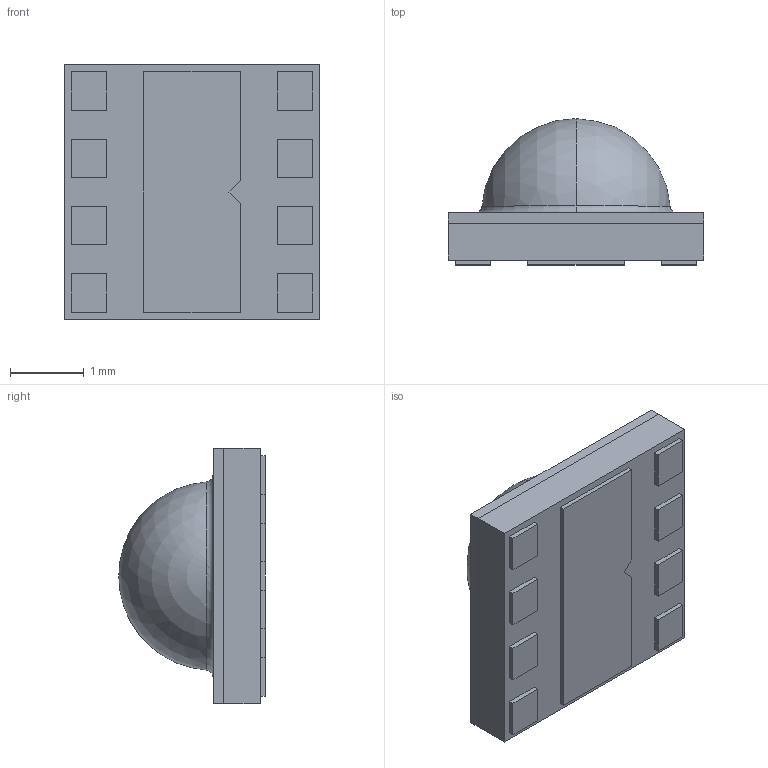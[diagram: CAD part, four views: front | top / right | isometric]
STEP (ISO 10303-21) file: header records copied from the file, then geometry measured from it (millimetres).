
FILE_DESCRIPTION (( 'STEP AP203' ), '1' );
FILE_NAME ('M3&M4&M5&M6&M7-3535 RGBW.STEP', '2024-01-18T07:17:46', ( '' ), ( '' ), 'SwSTEP 2.0', 'SolidWorks 2016', '' );
FILE_SCHEMA (( 'CONFIG_CONTROL_DESIGN' ));
Length unit declared in the file: millimetre
Products named in the file (1): M3&M4&M5&M6&M7-3535 RGBW
Bounding box: 3.45 x 1.98 x 3.45 mm (x, y, z)
Volume: 12.4 mm3; surface area: 62.9 mm2
Topology: 2 solids, 2 shells, 64 faces, 149 edges, 99 vertices
Faces by surface type: plane 60, sphere 2, torus 2
Entity records: 1868 total; most frequent: CARTESIAN_POINT 313, ORIENTED_EDGE 298, DIRECTION 287, EDGE_CURVE 149, VECTOR 141, LINE 141, VERTEX_POINT 99, EDGE_LOOP 74
